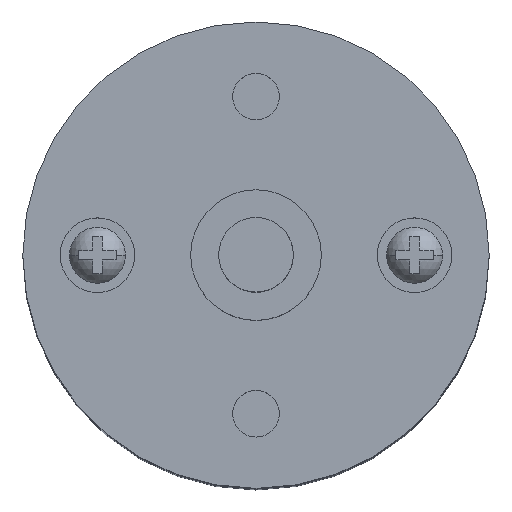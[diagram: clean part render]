
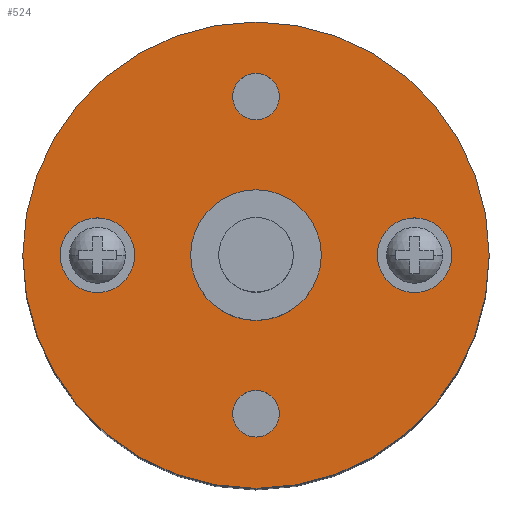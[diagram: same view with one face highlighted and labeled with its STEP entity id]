
A CAD part, top view. The second image highlights one B-rep face of the part: STEP entity #524.
In plain terms, the highlighted planar face has unit normal (0, 0, 1).
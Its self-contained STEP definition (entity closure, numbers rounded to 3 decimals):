
#14 = VERTEX_POINT ( 'NONE', #68 ) ;
#37 = CARTESIAN_POINT ( 'NONE',  ( 8.5, 0., 50. ) ) ;
#64 = DIRECTION ( 'NONE',  ( 1., 0., 0. ) ) ;
#68 = CARTESIAN_POINT ( 'NONE',  ( -6.5, 0., 50. ) ) ;
#80 = ORIENTED_EDGE ( 'NONE', *, *, #1951, .F. ) ;
#81 = EDGE_CURVE ( 'NONE', #3052, #407, #1118, .T. ) ;
#91 = CIRCLE ( 'NONE', #767, 3.5 ) ;
#107 = VERTEX_POINT ( 'NONE', #2796 ) ;
#234 = DIRECTION ( 'NONE',  ( 0., 0., 1. ) ) ;
#287 = DIRECTION ( 'NONE',  ( -1., 0., 0. ) ) ;
#289 = CARTESIAN_POINT ( 'NONE',  ( 0., 8.5, 50. ) ) ;
#328 = ORIENTED_EDGE ( 'NONE', *, *, #2399, .F. ) ;
#330 = EDGE_CURVE ( 'NONE', #107, #472, #2961, .T. ) ;
#338 = CIRCLE ( 'NONE', #1399, 2. ) ;
#359 = ORIENTED_EDGE ( 'NONE', *, *, #2971, .F. ) ;
#386 = CIRCLE ( 'NONE', #1820, 12.5 ) ;
#388 = DIRECTION ( 'NONE',  ( 0., 0., 1. ) ) ;
#407 = VERTEX_POINT ( 'NONE', #2740 ) ;
#427 = ORIENTED_EDGE ( 'NONE', *, *, #2742, .F. ) ;
#467 = CARTESIAN_POINT ( 'NONE',  ( 0., 8.5, 50. ) ) ;
#472 = VERTEX_POINT ( 'NONE', #1171 ) ;
#492 = CARTESIAN_POINT ( 'NONE',  ( 6.5, 0., 50. ) ) ;
#524 = ADVANCED_FACE ( 'NONE', ( #690, #619, #1313, #2495, #3066, #2422 ), #968, .T. ) ;
#525 = DIRECTION ( 'NONE',  ( 1., 0., 0. ) ) ;
#560 = CARTESIAN_POINT ( 'NONE',  ( 0., 0., 50. ) ) ;
#579 = DIRECTION ( 'NONE',  ( 0., 0., 1. ) ) ;
#619 = FACE_BOUND ( 'NONE', #1513, .T. ) ;
#670 = CARTESIAN_POINT ( 'NONE',  ( 0., -8.5, 50. ) ) ;
#684 = CIRCLE ( 'NONE', #2950, 1.25 ) ;
#690 = FACE_BOUND ( 'NONE', #740, .T. ) ;
#701 = EDGE_CURVE ( 'NONE', #472, #107, #91, .T. ) ;
#709 = DIRECTION ( 'NONE',  ( 1., 0., 0. ) ) ;
#740 = EDGE_LOOP ( 'NONE', ( #1159, #328 ) ) ;
#767 = AXIS2_PLACEMENT_3D ( 'NONE', #1652, #234, #1891 ) ;
#898 = CIRCLE ( 'NONE', #1655, 1.25 ) ;
#901 = DIRECTION ( 'NONE',  ( -1., 0., 0. ) ) ;
#954 = ORIENTED_EDGE ( 'NONE', *, *, #1725, .F. ) ;
#968 = PLANE ( 'NONE',  #2254 ) ;
#1035 = EDGE_CURVE ( 'NONE', #407, #3052, #386, .T. ) ;
#1118 = CIRCLE ( 'NONE', #1415, 12.5 ) ;
#1123 = AXIS2_PLACEMENT_3D ( 'NONE', #37, #1693, #287 ) ;
#1159 = ORIENTED_EDGE ( 'NONE', *, *, #2848, .F. ) ;
#1171 = CARTESIAN_POINT ( 'NONE',  ( -3.5, 0., 50. ) ) ;
#1175 = CARTESIAN_POINT ( 'NONE',  ( -8.5, 0., 50. ) ) ;
#1176 = VERTEX_POINT ( 'NONE', #492 ) ;
#1207 = VERTEX_POINT ( 'NONE', #3009 ) ;
#1261 = CARTESIAN_POINT ( 'NONE',  ( 8.5, 0., 50. ) ) ;
#1270 = AXIS2_PLACEMENT_3D ( 'NONE', #1175, #1634, #64 ) ;
#1313 = FACE_BOUND ( 'NONE', #2985, .T. ) ;
#1371 = VERTEX_POINT ( 'NONE', #2257 ) ;
#1399 = AXIS2_PLACEMENT_3D ( 'NONE', #1261, #2857, #1627 ) ;
#1415 = AXIS2_PLACEMENT_3D ( 'NONE', #1852, #2229, #3013 ) ;
#1428 = EDGE_LOOP ( 'NONE', ( #80, #427 ) ) ;
#1507 = CARTESIAN_POINT ( 'NONE',  ( -1.25, 8.5, 50. ) ) ;
#1513 = EDGE_LOOP ( 'NONE', ( #359, #954 ) ) ;
#1552 = ORIENTED_EDGE ( 'NONE', *, *, #81, .T. ) ;
#1606 = ORIENTED_EDGE ( 'NONE', *, *, #701, .F. ) ;
#1627 = DIRECTION ( 'NONE',  ( -1., 0., 0. ) ) ;
#1634 = DIRECTION ( 'NONE',  ( 0., 0., 1. ) ) ;
#1652 = CARTESIAN_POINT ( 'NONE',  ( 0., 0., 50. ) ) ;
#1655 = AXIS2_PLACEMENT_3D ( 'NONE', #670, #2321, #901 ) ;
#1665 = ORIENTED_EDGE ( 'NONE', *, *, #330, .F. ) ;
#1670 = CARTESIAN_POINT ( 'NONE',  ( 0., -8.5, 50. ) ) ;
#1693 = DIRECTION ( 'NONE',  ( 0., 0., 1. ) ) ;
#1725 = EDGE_CURVE ( 'NONE', #2813, #14, #2174, .T. ) ;
#1820 = AXIS2_PLACEMENT_3D ( 'NONE', #2973, #2437, #3050 ) ;
#1852 = CARTESIAN_POINT ( 'NONE',  ( 0., 0., 50. ) ) ;
#1883 = AXIS2_PLACEMENT_3D ( 'NONE', #1670, #2144, #2826 ) ;
#1891 = DIRECTION ( 'NONE',  ( 1., 0., 0. ) ) ;
#1939 = DIRECTION ( 'NONE',  ( 0., 0., 1. ) ) ;
#1951 = EDGE_CURVE ( 'NONE', #3087, #2964, #3049, .T. ) ;
#1995 = CARTESIAN_POINT ( 'NONE',  ( -8.5, 0., 50. ) ) ;
#1999 = AXIS2_PLACEMENT_3D ( 'NONE', #560, #388, #2534 ) ;
#2003 = EDGE_LOOP ( 'NONE', ( #1606, #1665 ) ) ;
#2022 = CARTESIAN_POINT ( 'NONE',  ( 12.5, 0., 50. ) ) ;
#2121 = DIRECTION ( 'NONE',  ( 0., 0., 1. ) ) ;
#2144 = DIRECTION ( 'NONE',  ( 0., 0., 1. ) ) ;
#2150 = AXIS2_PLACEMENT_3D ( 'NONE', #289, #1939, #525 ) ;
#2174 = CIRCLE ( 'NONE', #1270, 2. ) ;
#2181 = CARTESIAN_POINT ( 'NONE',  ( -1.25, -8.5, 50. ) ) ;
#2225 = DIRECTION ( 'NONE',  ( 1., 0., 0. ) ) ;
#2229 = DIRECTION ( 'NONE',  ( 0., 0., 1. ) ) ;
#2254 = AXIS2_PLACEMENT_3D ( 'NONE', #2879, #2937, #2448 ) ;
#2257 = CARTESIAN_POINT ( 'NONE',  ( 10.5, 0., 50. ) ) ;
#2276 = EDGE_LOOP ( 'NONE', ( #2709, #1552 ) ) ;
#2321 = DIRECTION ( 'NONE',  ( 0., 0., 1. ) ) ;
#2399 = EDGE_CURVE ( 'NONE', #1176, #1371, #338, .T. ) ;
#2416 = EDGE_CURVE ( 'NONE', #2886, #1207, #2787, .T. ) ;
#2422 = FACE_BOUND ( 'NONE', #2003, .T. ) ;
#2437 = DIRECTION ( 'NONE',  ( 0., 0., 1. ) ) ;
#2448 = DIRECTION ( 'NONE',  ( 1., 0., 0. ) ) ;
#2495 = FACE_BOUND ( 'NONE', #1428, .T. ) ;
#2534 = DIRECTION ( 'NONE',  ( 1., 0., 0. ) ) ;
#2575 = ORIENTED_EDGE ( 'NONE', *, *, #2639, .F. ) ;
#2604 = CIRCLE ( 'NONE', #3039, 2. ) ;
#2632 = CARTESIAN_POINT ( 'NONE',  ( -10.5, 0., 50. ) ) ;
#2639 = EDGE_CURVE ( 'NONE', #1207, #2886, #898, .T. ) ;
#2709 = ORIENTED_EDGE ( 'NONE', *, *, #1035, .T. ) ;
#2740 = CARTESIAN_POINT ( 'NONE',  ( -12.5, 0., 50. ) ) ;
#2742 = EDGE_CURVE ( 'NONE', #2964, #3087, #684, .T. ) ;
#2746 = CARTESIAN_POINT ( 'NONE',  ( 1.25, 8.5, 50. ) ) ;
#2787 = CIRCLE ( 'NONE', #1883, 1.25 ) ;
#2796 = CARTESIAN_POINT ( 'NONE',  ( 3.5, 0., 50. ) ) ;
#2813 = VERTEX_POINT ( 'NONE', #2632 ) ;
#2826 = DIRECTION ( 'NONE',  ( -1., 0., 0. ) ) ;
#2848 = EDGE_CURVE ( 'NONE', #1371, #1176, #2920, .T. ) ;
#2857 = DIRECTION ( 'NONE',  ( 0., 0., 1. ) ) ;
#2879 = CARTESIAN_POINT ( 'NONE',  ( 0., 0., 50. ) ) ;
#2886 = VERTEX_POINT ( 'NONE', #2181 ) ;
#2920 = CIRCLE ( 'NONE', #1123, 2. ) ;
#2937 = DIRECTION ( 'NONE',  ( 0., 0., 1. ) ) ;
#2950 = AXIS2_PLACEMENT_3D ( 'NONE', #467, #2121, #709 ) ;
#2961 = CIRCLE ( 'NONE', #1999, 3.5 ) ;
#2964 = VERTEX_POINT ( 'NONE', #1507 ) ;
#2971 = EDGE_CURVE ( 'NONE', #14, #2813, #2604, .T. ) ;
#2973 = CARTESIAN_POINT ( 'NONE',  ( 0., 0., 50. ) ) ;
#2985 = EDGE_LOOP ( 'NONE', ( #2575, #3074 ) ) ;
#3009 = CARTESIAN_POINT ( 'NONE',  ( 1.25, -8.5, 50. ) ) ;
#3013 = DIRECTION ( 'NONE',  ( 1., 0., 0. ) ) ;
#3039 = AXIS2_PLACEMENT_3D ( 'NONE', #1995, #579, #2225 ) ;
#3049 = CIRCLE ( 'NONE', #2150, 1.25 ) ;
#3050 = DIRECTION ( 'NONE',  ( 1., 0., 0. ) ) ;
#3052 = VERTEX_POINT ( 'NONE', #2022 ) ;
#3066 = FACE_OUTER_BOUND ( 'NONE', #2276, .T. ) ;
#3074 = ORIENTED_EDGE ( 'NONE', *, *, #2416, .F. ) ;
#3087 = VERTEX_POINT ( 'NONE', #2746 ) ;
